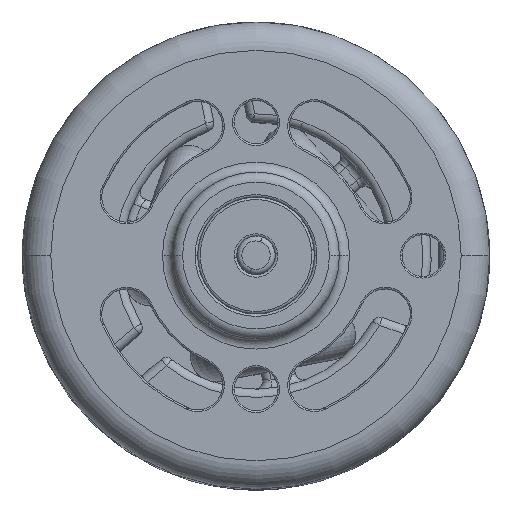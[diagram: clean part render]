
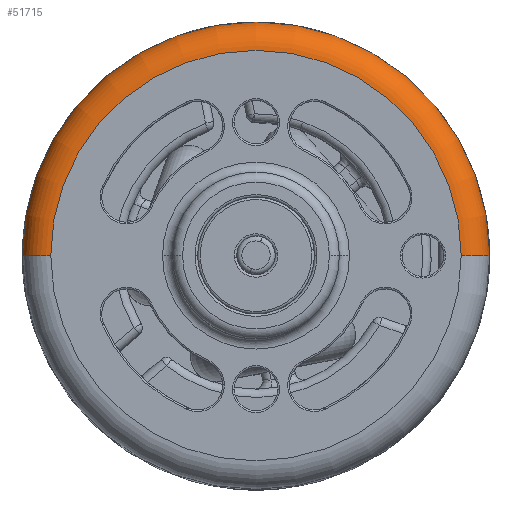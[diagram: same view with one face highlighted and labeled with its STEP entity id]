
A CAD part, top view. The second image highlights one B-rep face of the part: STEP entity #51715.
In plain terms, the highlighted toroidal (fillet/blend) face has major radius 12.3 mm and minor radius 1.7 mm.
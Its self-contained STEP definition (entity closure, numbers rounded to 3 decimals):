
#22465 = CARTESIAN_POINT ( 'NONE',  ( 12.3, 0., 0. ) ) ;
#22471 = DIRECTION ( 'NONE',  ( 1., 0., 0. ) ) ;
#22472 = DIRECTION ( 'NONE',  ( 0., 0., 1. ) ) ;
#22475 = CARTESIAN_POINT ( 'NONE',  ( 0., 0., 0. ) ) ;
#22476 = AXIS2_PLACEMENT_3D ( 'NONE', #22475, #22472, #22471 ) ;
#22478 = CIRCLE ( 'NONE', #22476, 12.3 ) ;
#22554 = CARTESIAN_POINT ( 'NONE',  ( -12.3, 0., 0. ) ) ;
#22558 = DIRECTION ( 'NONE',  ( -1., 0., 0. ) ) ;
#22560 = DIRECTION ( 'NONE',  ( 0., 1., 0. ) ) ;
#22563 = CARTESIAN_POINT ( 'NONE',  ( -12.3, 0., -1.7 ) ) ;
#22565 = AXIS2_PLACEMENT_3D ( 'NONE', #22563, #22560, #22558 ) ;
#22567 = CIRCLE ( 'NONE', #22565, 1.7 ) ;
#22983 = CARTESIAN_POINT ( 'NONE',  ( 14., 0., -1.7 ) ) ;
#22987 = CARTESIAN_POINT ( 'NONE',  ( -14., 0., -1.7 ) ) ;
#22990 = DIRECTION ( 'NONE',  ( 1., 0., 0. ) ) ;
#22992 = DIRECTION ( 'NONE',  ( 0., 0., -1. ) ) ;
#22995 = CARTESIAN_POINT ( 'NONE',  ( 0., 0., -1.7 ) ) ;
#22997 = AXIS2_PLACEMENT_3D ( 'NONE', #22995, #22992, #22990 ) ;
#22999 = CIRCLE ( 'NONE', #22997, 14. ) ;
#23143 = DIRECTION ( 'NONE',  ( 1., 0., 0. ) ) ;
#23144 = DIRECTION ( 'NONE',  ( 0., 0., 1. ) ) ;
#23145 = CARTESIAN_POINT ( 'NONE',  ( 0., 0., -1.7 ) ) ;
#23147 = AXIS2_PLACEMENT_3D ( 'NONE', #23145, #23144, #23143 ) ;
#23152 = TOROIDAL_SURFACE ( 'NONE', #23147, 12.3, 1.7 ) ;
#23154 = FACE_OUTER_BOUND ( 'NONE', #51702, .T. ) ;
#23241 = DIRECTION ( 'NONE',  ( 0., 0., -1. ) ) ;
#23242 = DIRECTION ( 'NONE',  ( 0., -1., 0. ) ) ;
#23245 = CARTESIAN_POINT ( 'NONE',  ( 12.3, 0., -1.7 ) ) ;
#23247 = AXIS2_PLACEMENT_3D ( 'NONE', #23245, #23242, #23241 ) ;
#23249 = CIRCLE ( 'NONE', #23247, 1.7 ) ;
#51617 = ORIENTED_EDGE ( 'NONE', *, *, #51619, .T. ) ;
#51619 = EDGE_CURVE ( 'NONE', #51708, #51622, #22567, .T. ) ;
#51622 = VERTEX_POINT ( 'NONE', #22554 ) ;
#51623 = ORIENTED_EDGE ( 'NONE', *, *, #51624, .F. ) ;
#51624 = EDGE_CURVE ( 'NONE', #51625, #51622, #22478, .T. ) ;
#51625 = VERTEX_POINT ( 'NONE', #22465 ) ;
#51702 = EDGE_LOOP ( 'NONE', ( #51704, #51617, #51623, #51744 ) ) ;
#51704 = ORIENTED_EDGE ( 'NONE', *, *, #51706, .F. ) ;
#51706 = EDGE_CURVE ( 'NONE', #51708, #51710, #22999, .T. ) ;
#51708 = VERTEX_POINT ( 'NONE', #22987 ) ;
#51710 = VERTEX_POINT ( 'NONE', #22983 ) ;
#51715 = ADVANCED_FACE ( 'NONE', ( #23154 ), #23152, .T. ) ;
#51744 = ORIENTED_EDGE ( 'NONE', *, *, #51746, .F. ) ;
#51746 = EDGE_CURVE ( 'NONE', #51710, #51625, #23249, .T. ) ;
